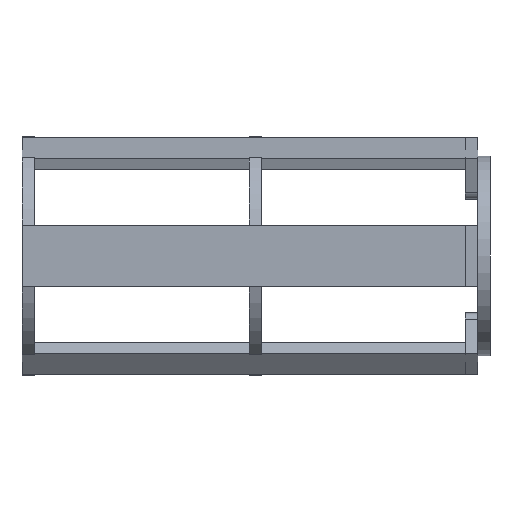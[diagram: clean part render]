
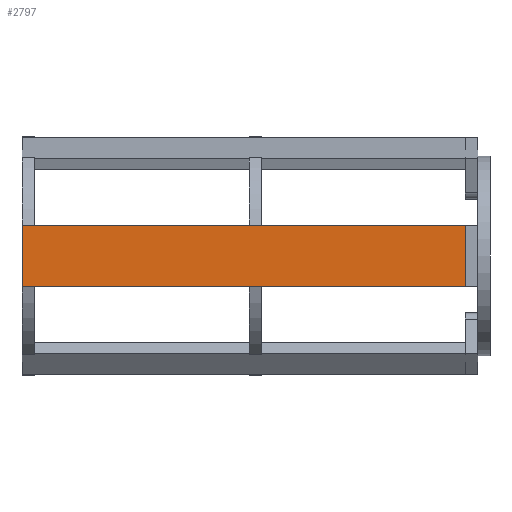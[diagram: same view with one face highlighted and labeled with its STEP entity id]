
A CAD part, left-side view. The second image highlights one B-rep face of the part: STEP entity #2797.
In plain terms, the highlighted planar face has unit normal (-1, 0, 0).
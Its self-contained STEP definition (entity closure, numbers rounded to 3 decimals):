
#96 = EDGE_CURVE ( 'NONE', #2822, #334, #2912, .T. ) ;
#214 = FACE_OUTER_BOUND ( 'NONE', #3536, .T. ) ;
#332 = VERTEX_POINT ( 'NONE', #1389 ) ;
#334 = VERTEX_POINT ( 'NONE', #837 ) ;
#353 = DIRECTION ( 'NONE',  ( 0., 1., 0. ) ) ;
#477 = VERTEX_POINT ( 'NONE', #3083 ) ;
#621 = PLANE ( 'NONE',  #2553 ) ;
#632 = CARTESIAN_POINT ( 'NONE',  ( -37.5, 0., 10. ) ) ;
#837 = CARTESIAN_POINT ( 'NONE',  ( -37.5, 0., -10. ) ) ;
#841 = ORIENTED_EDGE ( 'NONE', *, *, #1515, .T. ) ;
#1075 = CARTESIAN_POINT ( 'NONE',  ( -37.5, 0., -10. ) ) ;
#1233 = CARTESIAN_POINT ( 'NONE',  ( -37.5, 0., 0. ) ) ;
#1285 = ORIENTED_EDGE ( 'NONE', *, *, #2867, .T. ) ;
#1361 = ORIENTED_EDGE ( 'NONE', *, *, #96, .T. ) ;
#1389 = CARTESIAN_POINT ( 'NONE',  ( -37.5, -144.498, -10. ) ) ;
#1448 = ORIENTED_EDGE ( 'NONE', *, *, #4114, .T. ) ;
#1515 = EDGE_CURVE ( 'NONE', #332, #477, #1567, .T. ) ;
#1567 = LINE ( 'NONE', #2516, #2850 ) ;
#1748 = DIRECTION ( 'NONE',  ( 0., 0., -1. ) ) ;
#1753 = DIRECTION ( 'NONE',  ( 0., -1., 0. ) ) ;
#1906 = DIRECTION ( 'NONE',  ( 0., 0., 1. ) ) ;
#1955 = LINE ( 'NONE', #632, #3892 ) ;
#2516 = CARTESIAN_POINT ( 'NONE',  ( -37.5, -144.498, -10. ) ) ;
#2553 = AXIS2_PLACEMENT_3D ( 'NONE', #1233, #2871, #1906 ) ;
#2701 = VECTOR ( 'NONE', #1748, 1000. ) ;
#2797 = ADVANCED_FACE ( 'NONE', ( #214 ), #621, .T. ) ;
#2822 = VERTEX_POINT ( 'NONE', #3133 ) ;
#2850 = VECTOR ( 'NONE', #3136, 1000. ) ;
#2867 = EDGE_CURVE ( 'NONE', #477, #2822, #1955, .T. ) ;
#2871 = DIRECTION ( 'NONE',  ( -1., 0., 0. ) ) ;
#2912 = LINE ( 'NONE', #1075, #2701 ) ;
#3083 = CARTESIAN_POINT ( 'NONE',  ( -37.5, -144.498, 10. ) ) ;
#3133 = CARTESIAN_POINT ( 'NONE',  ( -37.5, 0., 10. ) ) ;
#3136 = DIRECTION ( 'NONE',  ( 0., 0., 1. ) ) ;
#3536 = EDGE_LOOP ( 'NONE', ( #1448, #841, #1285, #1361 ) ) ;
#3638 = CARTESIAN_POINT ( 'NONE',  ( -37.5, 0., -10. ) ) ;
#3675 = LINE ( 'NONE', #3638, #4099 ) ;
#3892 = VECTOR ( 'NONE', #353, 1000. ) ;
#4099 = VECTOR ( 'NONE', #1753, 1000. ) ;
#4114 = EDGE_CURVE ( 'NONE', #334, #332, #3675, .T. ) ;
